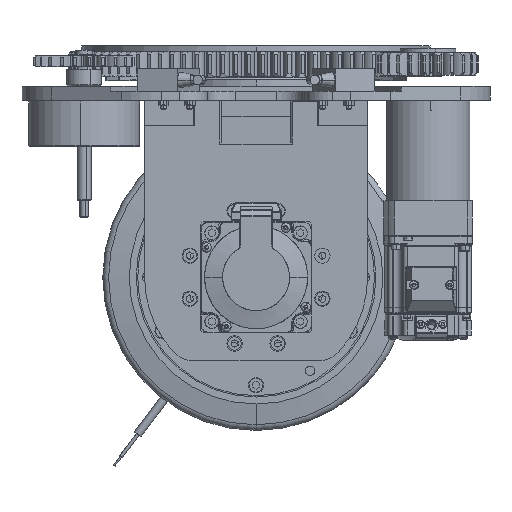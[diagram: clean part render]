
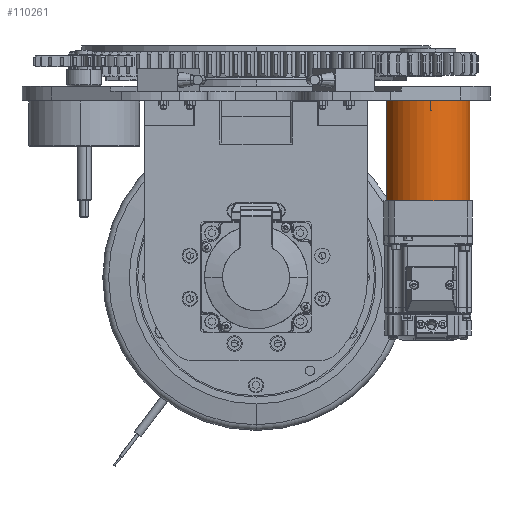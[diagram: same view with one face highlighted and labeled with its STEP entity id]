
A CAD part, left-side view. The second image highlights one B-rep face of the part: STEP entity #110261.
In plain terms, the highlighted cylindrical face has radius 30 mm (diameter 60 mm), a partial arc.
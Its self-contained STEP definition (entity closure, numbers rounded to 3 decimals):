
#5766 = VERTEX_POINT ( 'NONE', #133703 ) ;
#5770 = VERTEX_POINT ( 'NONE', #133708 ) ;
#5780 = VERTEX_POINT ( 'NONE', #10301 ) ;
#5994 = VERTEX_POINT ( 'NONE', #10629 ) ;
#6190 = VERTEX_POINT ( 'NONE', #10927 ) ;
#6399 = FACE_OUTER_BOUND ( 'NONE', #89523, .T. ) ;
#6426 = CYLINDRICAL_SURFACE ( 'NONE', #166064, 30. ) ;
#10301 = CARTESIAN_POINT ( 'NONE',  ( -169.059, -96.441, 78.364 ) ) ;
#10629 = CARTESIAN_POINT ( 'NONE',  ( -196.893, -128.461, 78.364 ) ) ;
#10927 = CARTESIAN_POINT ( 'NONE',  ( -164.874, -156.295, 150.364 ) ) ;
#41013 = AXIS2_PLACEMENT_3D ( 'NONE', #70621, #70623, #70625 ) ;
#41038 = AXIS2_PLACEMENT_3D ( 'NONE', #70913, #70915, #70917 ) ;
#41039 = AXIS2_PLACEMENT_3D ( 'NONE', #70925, #70927, #70929 ) ;
#66393 = LINE ( 'NONE', #69840, #66433 ) ;
#66433 = VECTOR ( 'NONE', #69859, 1000. ) ;
#66689 = LINE ( 'NONE', #70570, #66693 ) ;
#66693 = VECTOR ( 'NONE', #70573, 1000. ) ;
#66729 = CIRCLE ( 'NONE', #41013, 30. ) ;
#66966 = CIRCLE ( 'NONE', #41038, 30. ) ;
#66974 = CIRCLE ( 'NONE', #41039, 30. ) ;
#69840 = CARTESIAN_POINT ( 'NONE',  ( -164.874, -156.295, 150.364 ) ) ;
#69859 = DIRECTION ( 'NONE',  ( 0., 0., -1. ) ) ;
#70570 = CARTESIAN_POINT ( 'NONE',  ( -169.059, -96.441, 150.364 ) ) ;
#70573 = DIRECTION ( 'NONE',  ( 0., 0., -1. ) ) ;
#70621 = CARTESIAN_POINT ( 'NONE',  ( -166.966, -126.368, 78.364 ) ) ;
#70623 = DIRECTION ( 'NONE',  ( 0., 0., 1. ) ) ;
#70625 = DIRECTION ( 'NONE',  ( -0.07, 0.998, 0. ) ) ;
#70913 = CARTESIAN_POINT ( 'NONE',  ( -166.966, -126.368, 150.364 ) ) ;
#70915 = DIRECTION ( 'NONE',  ( 0., 0., -1. ) ) ;
#70917 = DIRECTION ( 'NONE',  ( -0.07, 0.998, 0. ) ) ;
#70925 = CARTESIAN_POINT ( 'NONE',  ( -166.966, -126.368, 78.364 ) ) ;
#70927 = DIRECTION ( 'NONE',  ( 0., 0., 1. ) ) ;
#70929 = DIRECTION ( 'NONE',  ( -0.07, 0.998, 0. ) ) ;
#83771 = ORIENTED_EDGE ( 'NONE', *, *, #132110, .F. ) ;
#83776 = ORIENTED_EDGE ( 'NONE', *, *, #132529, .T. ) ;
#83779 = ORIENTED_EDGE ( 'NONE', *, *, #132365, .T. ) ;
#83783 = ORIENTED_EDGE ( 'NONE', *, *, #132535, .T. ) ;
#83786 = ORIENTED_EDGE ( 'NONE', *, *, #132387, .T. ) ;
#85742 = DIRECTION ( 'NONE',  ( 0., 0., -1. ) ) ;
#85780 = CARTESIAN_POINT ( 'NONE',  ( -166.966, -126.368, 150.364 ) ) ;
#85794 = DIRECTION ( 'NONE',  ( -0.07, 0.998, 0. ) ) ;
#89523 = EDGE_LOOP ( 'NONE', ( #83771, #83776, #83779, #83783, #83786 ) ) ;
#110261 = ADVANCED_FACE ( 'NONE', ( #6399 ), #6426, .T. ) ;
#132110 = EDGE_CURVE ( 'NONE', #6190, #5770, #66393, .T. ) ;
#132365 = EDGE_CURVE ( 'NONE', #5766, #5780, #66689, .T. ) ;
#132387 = EDGE_CURVE ( 'NONE', #5994, #5770, #66729, .T. ) ;
#132529 = EDGE_CURVE ( 'NONE', #6190, #5766, #66966, .T. ) ;
#132535 = EDGE_CURVE ( 'NONE', #5780, #5994, #66974, .T. ) ;
#133703 = CARTESIAN_POINT ( 'NONE',  ( -169.059, -96.441, 150.364 ) ) ;
#133708 = CARTESIAN_POINT ( 'NONE',  ( -164.874, -156.295, 78.364 ) ) ;
#166064 = AXIS2_PLACEMENT_3D ( 'NONE', #85780, #85742, #85794 ) ;
